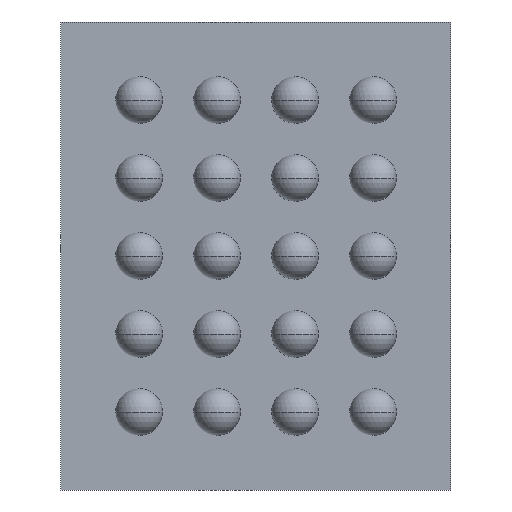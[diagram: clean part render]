
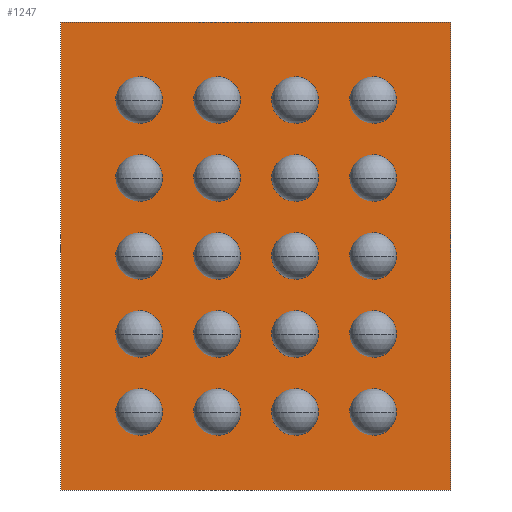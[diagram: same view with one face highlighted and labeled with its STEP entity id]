
A CAD part, front view. The second image highlights one B-rep face of the part: STEP entity #1247.
In plain terms, the highlighted planar face has unit normal (0, -1, 0).
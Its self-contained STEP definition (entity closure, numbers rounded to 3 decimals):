
#1100 = CARTESIAN_POINT ( 'NONE',  ( 1.25, 0.18, 1.5 ) ) ;
#1101 = VERTEX_POINT ( 'NONE', #1100 ) ;
#1102 = CARTESIAN_POINT ( 'NONE',  ( 1.25, 0.18, -1.5 ) ) ;
#1103 = VERTEX_POINT ( 'NONE', #1102 ) ;
#1104 = CARTESIAN_POINT ( 'NONE',  ( 1.25, 0.18, 1.5 ) ) ;
#1105 = DIRECTION ( 'NONE',  ( 0., 0., -1. ) ) ;
#1106 = VECTOR ( 'NONE', #1105, 1000. ) ;
#1107 = LINE ( 'NONE', #1104, #1106 ) ;
#1108 = EDGE_CURVE ( 'NONE', #1101, #1103, #1107, .T. ) ;
#1140 = CARTESIAN_POINT ( 'NONE',  ( -1.25, 0.18, -1.5 ) ) ;
#1141 = VERTEX_POINT ( 'NONE', #1140 ) ;
#1142 = CARTESIAN_POINT ( 'NONE',  ( -1.25, 0.18, -1.5 ) ) ;
#1143 = DIRECTION ( 'NONE',  ( -1., 0., 0. ) ) ;
#1144 = VECTOR ( 'NONE', #1143, 1000. ) ;
#1145 = LINE ( 'NONE', #1142, #1144 ) ;
#1146 = EDGE_CURVE ( 'NONE', #1103, #1141, #1145, .T. ) ;
#1171 = CARTESIAN_POINT ( 'NONE',  ( -1.25, 0.18, 1.5 ) ) ;
#1172 = VERTEX_POINT ( 'NONE', #1171 ) ;
#1173 = CARTESIAN_POINT ( 'NONE',  ( -1.25, 0.18, 1.5 ) ) ;
#1174 = DIRECTION ( 'NONE',  ( 0., 0., 1. ) ) ;
#1175 = VECTOR ( 'NONE', #1174, 1000. ) ;
#1176 = LINE ( 'NONE', #1173, #1175 ) ;
#1177 = EDGE_CURVE ( 'NONE', #1141, #1172, #1176, .T. ) ;
#1202 = CARTESIAN_POINT ( 'NONE',  ( -1.25, 0.18, 1.5 ) ) ;
#1203 = DIRECTION ( 'NONE',  ( 1., 0., 0. ) ) ;
#1204 = VECTOR ( 'NONE', #1203, 1000. ) ;
#1205 = LINE ( 'NONE', #1202, #1204 ) ;
#1206 = EDGE_CURVE ( 'NONE', #1172, #1101, #1205, .T. ) ;
#1236 = ORIENTED_EDGE ( 'NONE', *, *, #1108, .F. ) ;
#1237 = ORIENTED_EDGE ( 'NONE', *, *, #1206, .F. ) ;
#1238 = ORIENTED_EDGE ( 'NONE', *, *, #1177, .F. ) ;
#1239 = ORIENTED_EDGE ( 'NONE', *, *, #1146, .F. ) ;
#1240 = EDGE_LOOP ( 'NONE', ( #1236, #1237, #1238, #1239 ) ) ;
#1241 = FACE_OUTER_BOUND ( 'NONE', #1240, .T. ) ;
#1242 = CARTESIAN_POINT ( 'NONE',  ( 0., 0.18, 0. ) ) ;
#1243 = DIRECTION ( 'NONE',  ( 0., -1., 0. ) ) ;
#1244 = DIRECTION ( 'NONE',  ( 0., 0., -1. ) ) ;
#1245 = AXIS2_PLACEMENT_3D ( 'NONE', #1242, #1243, #1244 ) ;
#1246 = PLANE ( 'NONE', #1245 ) ;
#1247 = ADVANCED_FACE ( 'NONE', ( #1241 ), #1246, .T. ) ;
